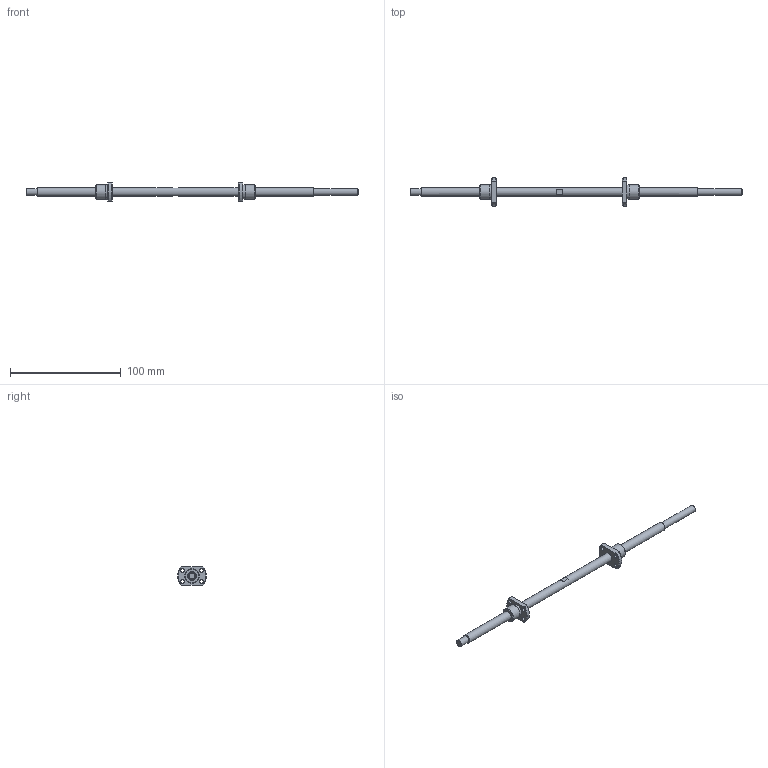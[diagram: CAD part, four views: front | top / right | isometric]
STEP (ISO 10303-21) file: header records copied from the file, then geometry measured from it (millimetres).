
FILE_DESCRIPTION( ( 'STEP AP214' ), ' ' );
FILE_NAME( 'p:/temp/worker_8/904_3764/app_75_12015091122102744628900260eae72_000000_00_00_000000/format_0/SD0801-120L120R300C3(53)(53).stp', '2015-09-11T20:10:27', ( '' ), ( '' ), ' ', 'PARTsolutions', ' ' );
FILE_SCHEMA( ( 'AUTOMOTIVE_DESIGN { 1 0 10303 214 1 1 1 1 }' ) );
Length unit declared in the file: millimetre
Products named in the file (3): SD0801-120L120R300C3(53)(53); _SD0801-120L120R300C3_(5353)Shaft; _SD0801C3_n
Assembly tree (3 placements, depth 2):
  SD0801-120L120R300C3(53)(53)
    _SD0801-120L120R300C3_(5353)Shaft
    _SD0801C3_n  x2
Bounding box: 300 x 25.92 x 17 mm (x, y, z)
Volume: 18436 mm3; surface area: 11196.7 mm2
Topology: 3 solids, 3 shells, 57 faces, 126 edges, 82 vertices
Faces by surface type: plane 22, cylinder 21, cone 14
Full cylindrical faces by diameter (mm): 3.4 x8, 6.3 x2, 8 x3, 12.7 x2, 13 x2
Entity records: 1298 total; most frequent: CARTESIAN_POINT 175, DIRECTION 172, ORIENTED_EDGE 122, AXIS2_PLACEMENT_3D 78, EDGE_LOOP 68, EDGE_CURVE 61, VERTEX_POINT 49, FACE_OUTER_BOUND 47
